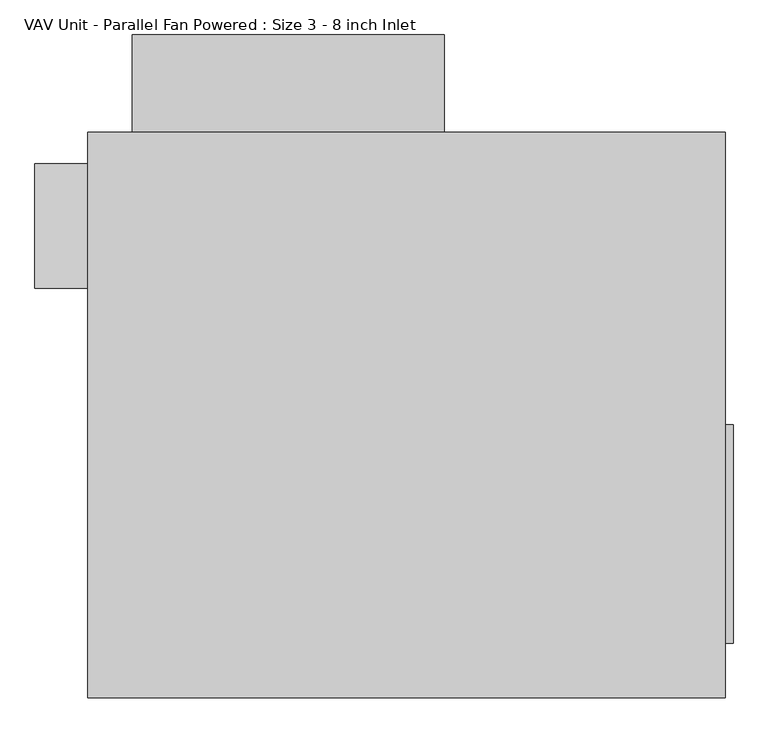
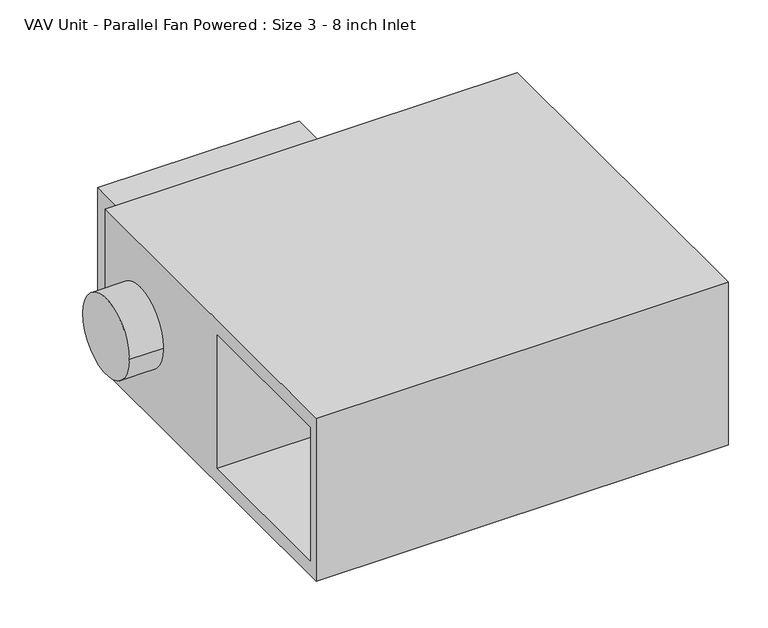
"""IFC4 building model written with IfcOpenShell, lengths in millimetres: proxy geometry, VAV Unit - Parallel Fan Powered : Size 3 - 8 inch Inlet."""

from ifc_helpers import new_model, si_unit, point, frame, frame_2d, origin, place, context, project, spatial, polyline, circle_curve, trimmed, segment, composite_curve, outline, extrude, faceted_brep, source, transform, mapped, element, save


def vav_unit_parallel_fan_powered_size_3_8_inch_inlet_1779b90c(model_context):
    return source(origin(), model_context, "Body", "SolidModel", [
        extrude(outline(polyline([(531.8125, -15.875), (531.8125, -371.475), (519.1125, -371.475), (519.1125, -15.875), (531.8125, -15.875)])), frame((0.0, 0.0, -139.7), z_axis=(0.0, 0.0, 1.0), x_axis=(1.0, 0.0, 0.0)), (0.0, 0.0, 1.0), 279.4),
        extrude(outline(polyline([(61.9125, 460.375), (-446.0875, 460.375), (-446.0875, 619.125), (61.9125, 619.125), (61.9125, 460.375)])), frame((0.0, 0.0, -152.4), z_axis=(0.0, 0.0, 1.0), x_axis=(1.0, 0.0, 0.0)), (0.0, 0.0, 1.0), 304.8),
        extrude(outline(composite_curve([segment(trimmed(circle_curve(frame_2d((307.975, 0.0)), 101.6), [point((206.375, 0.0))], [point((409.575, 0.0))], False, "CARTESIAN"), True, "CONTINUOUS"), segment(trimmed(circle_curve(frame_2d((307.975, 0.0)), 101.6), [point((409.575, 0.0))], [point((206.375, 0.0))], False, "CARTESIAN"), True, "CONTINUOUS")], self_intersect=False)), frame((-604.8375, 0.0, 0.0), z_axis=(1.0, 0.0, 0.0), x_axis=(0.0, 1.0, 0.0)), (0.0, 0.0, 1.0), 85.725),
        faceted_brep([(519.1125, 460.375, 217.4875), (-519.1125, 460.375, 217.4875), (-519.1125, -460.375, 217.4875), (519.1125, -460.375, 217.4875), (519.1125, 460.375, -217.4875), (519.1125, -460.375, -217.4875), (-519.1125, -460.375, -217.4875), (-519.1125, 460.375, -217.4875), (-519.1125, -434.975, 177.8), (-519.1125, -434.975, -177.8), (-519.1125, -28.575, -177.8), (-519.1125, -28.575, 177.8), (0.0, -434.975, 177.8), (0.0, -28.575, 177.8), (0.0, -28.575, -177.8), (0.0, -434.975, -177.8)], [[[0, 1, 2, 3]], [[4, 5, 6, 7]], [[1, 0, 4, 7]], [[2, 1, 7, 6], [8, 9, 10, 11]], [[3, 2, 6, 5]], [[0, 3, 5, 4]], [[12, 13, 14, 15]], [[12, 15, 9, 8]], [[15, 14, 10, 9]], [[14, 13, 11, 10]], [[13, 12, 8, 11]]]),
    ])


if __name__ == "__main__":
    model = new_model("IFC4")
    model_context = context("Model", 3, world=origin())
    ifc_project = project(units=[si_unit("LENGTHUNIT", "METRE", prefix="MILLI")], contexts=[model_context])
    site = spatial("IfcSite", under=ifc_project)
    building = spatial("IfcBuilding", under=site)
    placement = place(None, origin())
    vav_unit_parallel_fan_powered_size_3_8_inch_inlet_shape = vav_unit_parallel_fan_powered_size_3_8_inch_inlet_1779b90c(model_context)
    element("IfcBuildingElementProxy", 1, Name="VAV Unit - Parallel Fan Powered : Size 3 - 8 inch Inlet", ObjectType="VAV Unit - Parallel Fan Powered : Size 3 - 8 inch Inlet", at=placement, inside=building, context=model_context, shape_type="MappedRepresentation", body=[
        mapped(vav_unit_parallel_fan_powered_size_3_8_inch_inlet_shape, transform((0.0, 0.0, 0.0), x_axis=(1.0, 0.0, 0.0), y_axis=(0.0, 1.0, 0.0), z_axis=(0.0, 0.0, 1.0))),
    ])
    save(model, "model.ifc")
